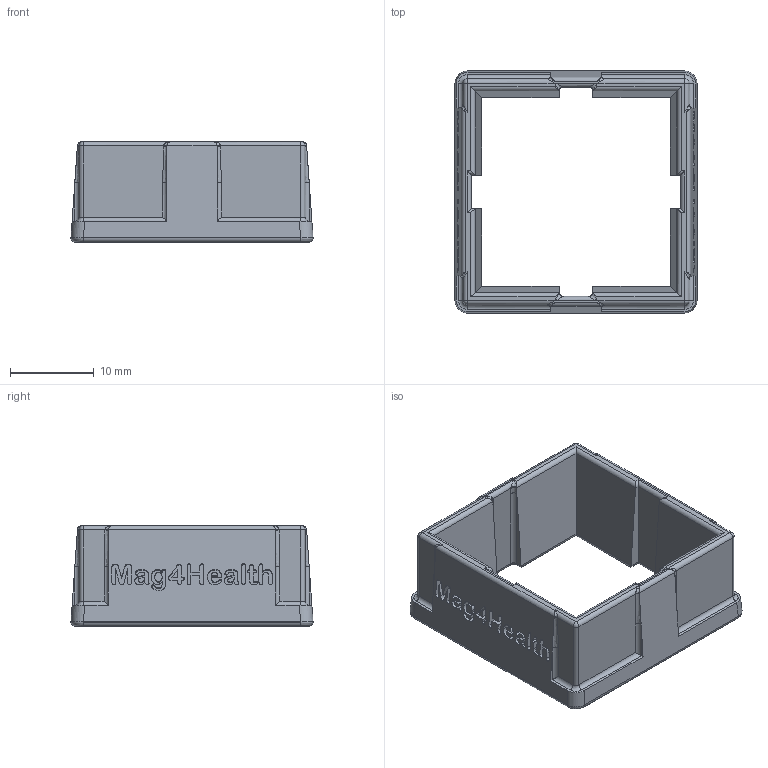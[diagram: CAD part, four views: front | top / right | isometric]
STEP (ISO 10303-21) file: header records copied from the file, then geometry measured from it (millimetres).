
FILE_DESCRIPTION (( 'STEP AP203' ), '1' );
FILE_NAME ('M4H_Helmet_v1_Ring.STEP', '2026-07-31T15:39:07', ( '' ), ( '' ), 'SwSTEP 2.0', 'SolidWorks 2026', '' );
FILE_SCHEMA (( 'CONFIG_CONTROL_DESIGN' ));
Length unit declared in the file: millimetre
Products named in the file (1): M4H_Helmet_v1_Ring
Bounding box: 28.93 x 28.93 x 12 mm (x, y, z)
Volume: 2483.9 mm3; surface area: 3135.9 mm2
Topology: 1 solids, 1 shells, 582 faces, 1535 edges, 968 vertices
Faces by surface type: bspline 296, plane 177, cylinder 97, torus 8, sphere 4
Entity records: 28442 total; most frequent: CARTESIAN_POINT 16332, ORIENTED_EDGE 3038, DIRECTION 1593, EDGE_CURVE 1519, VERTEX_POINT 968, LINE 767, VECTOR 767, EDGE_LOOP 613
